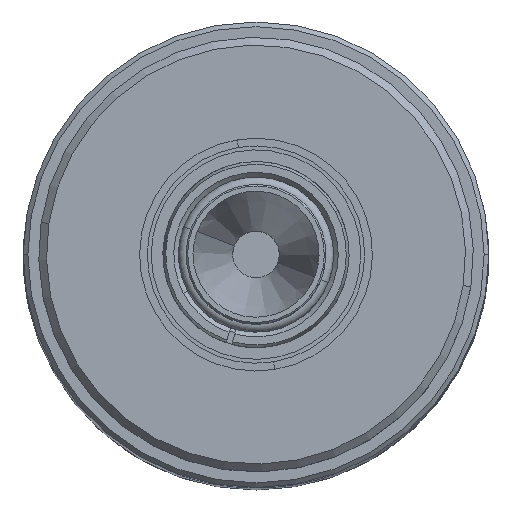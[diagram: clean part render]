
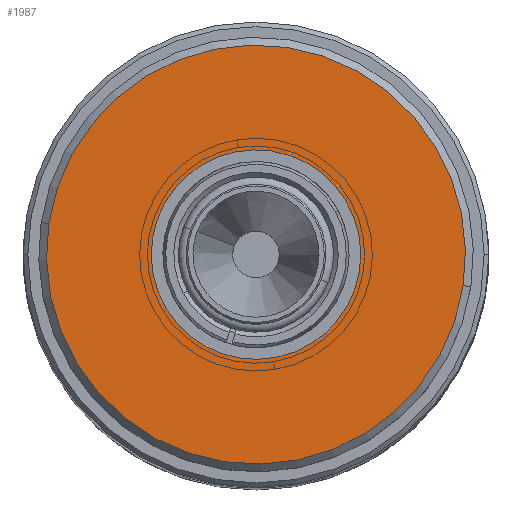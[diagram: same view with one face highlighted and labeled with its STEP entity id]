
A CAD part, top view. The second image highlights one B-rep face of the part: STEP entity #1987.
In plain terms, the highlighted planar face has unit normal (0, 0, 1) as drawn and (0, -1, 0) by its records, which use the part's own axes.
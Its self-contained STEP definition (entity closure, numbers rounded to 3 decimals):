
#87 = VERTEX_POINT ( 'NONE', #148 ) ;
#148 = CARTESIAN_POINT ( 'NONE',  ( 0., 0., 6.75 ) ) ;
#238 = AXIS2_PLACEMENT_3D ( 'NONE', #7423, #6925, #11318 ) ;
#471 = EDGE_LOOP ( 'NONE', ( #2816, #4857 ) ) ;
#522 = EDGE_LOOP ( 'NONE', ( #3480, #5936 ) ) ;
#570 = CARTESIAN_POINT ( 'NONE',  ( 0., 0., 0. ) ) ;
#775 = CIRCLE ( 'NONE', #9411, 13.5 ) ;
#1148 = DIRECTION ( 'NONE',  ( 0., -1., 0. ) ) ;
#1185 = DIRECTION ( 'NONE',  ( 0., 1., 0. ) ) ;
#1497 = VERTEX_POINT ( 'NONE', #11678 ) ;
#1512 = DIRECTION ( 'NONE',  ( 0., 0., 1. ) ) ;
#1987 = ADVANCED_FACE ( 'NONE', ( #7663, #4889 ), #8833, .F. ) ;
#2150 = EDGE_CURVE ( 'NONE', #6536, #1497, #3878, .T. ) ;
#2741 = CARTESIAN_POINT ( 'NONE',  ( 0., 0., 0. ) ) ;
#2816 = ORIENTED_EDGE ( 'NONE', *, *, #10318, .T. ) ;
#3237 = DIRECTION ( 'NONE',  ( 0., 0., 1. ) ) ;
#3480 = ORIENTED_EDGE ( 'NONE', *, *, #10293, .T. ) ;
#3878 = CIRCLE ( 'NONE', #10030, 13.5 ) ;
#4121 = CARTESIAN_POINT ( 'NONE',  ( 0., 0., -13.5 ) ) ;
#4857 = ORIENTED_EDGE ( 'NONE', *, *, #6591, .T. ) ;
#4889 = FACE_BOUND ( 'NONE', #471, .T. ) ;
#5936 = ORIENTED_EDGE ( 'NONE', *, *, #2150, .T. ) ;
#6060 = CIRCLE ( 'NONE', #8751, 6.75 ) ;
#6449 = CARTESIAN_POINT ( 'NONE',  ( 0., 0., -6.75 ) ) ;
#6536 = VERTEX_POINT ( 'NONE', #4121 ) ;
#6584 = CARTESIAN_POINT ( 'NONE',  ( 0., 0., 0. ) ) ;
#6591 = EDGE_CURVE ( 'NONE', #87, #6905, #6060, .T. ) ;
#6620 = CARTESIAN_POINT ( 'NONE',  ( 0., 0., 0. ) ) ;
#6905 = VERTEX_POINT ( 'NONE', #6449 ) ;
#6914 = DIRECTION ( 'NONE',  ( 0., 1., 0. ) ) ;
#6925 = DIRECTION ( 'NONE',  ( 0., 1., 0. ) ) ;
#7423 = CARTESIAN_POINT ( 'NONE',  ( 0., 0., 0. ) ) ;
#7487 = DIRECTION ( 'NONE',  ( 0., 0., 1. ) ) ;
#7527 = DIRECTION ( 'NONE',  ( 0., 0., 1. ) ) ;
#7663 = FACE_OUTER_BOUND ( 'NONE', #522, .T. ) ;
#8035 = DIRECTION ( 'NONE',  ( 0., -1., 0. ) ) ;
#8751 = AXIS2_PLACEMENT_3D ( 'NONE', #570, #6914, #1512 ) ;
#8833 = PLANE ( 'NONE',  #238 ) ;
#9411 = AXIS2_PLACEMENT_3D ( 'NONE', #6584, #1148, #7487 ) ;
#10030 = AXIS2_PLACEMENT_3D ( 'NONE', #2741, #8035, #3237 ) ;
#10293 = EDGE_CURVE ( 'NONE', #1497, #6536, #775, .T. ) ;
#10318 = EDGE_CURVE ( 'NONE', #6905, #87, #10517, .T. ) ;
#10517 = CIRCLE ( 'NONE', #10656, 6.75 ) ;
#10656 = AXIS2_PLACEMENT_3D ( 'NONE', #6620, #1185, #7527 ) ;
#11318 = DIRECTION ( 'NONE',  ( 0., 0., 1. ) ) ;
#11678 = CARTESIAN_POINT ( 'NONE',  ( 0., 0., 13.5 ) ) ;
